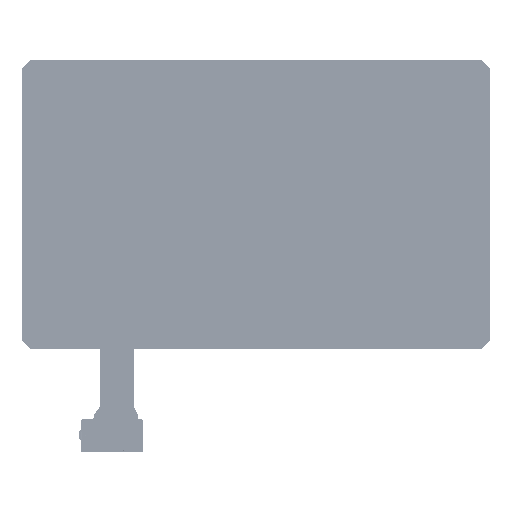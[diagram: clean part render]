
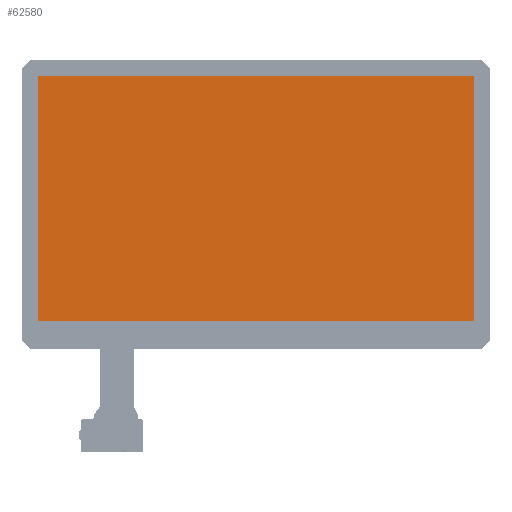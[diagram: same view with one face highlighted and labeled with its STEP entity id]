
A CAD part, top view. The second image highlights one B-rep face of the part: STEP entity #62580.
In plain terms, the highlighted planar face has unit normal (0, 0, 1).
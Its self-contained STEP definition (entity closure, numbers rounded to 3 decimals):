
#62580=ADVANCED_FACE('',(#110549),#828839,.T.);
#110549=FACE_OUTER_BOUND('',#158520,.T.);
#158520=EDGE_LOOP('',(#207640,#207641,#207642,#207643));
#207640=ORIENTED_EDGE('',*,*,#490198,.F.);
#207641=ORIENTED_EDGE('',*,*,#490197,.F.);
#207642=ORIENTED_EDGE('',*,*,#490196,.F.);
#207643=ORIENTED_EDGE('',*,*,#490199,.F.);
#490196=EDGE_CURVE('',#735049,#735050,#631936,.T.);
#490197=EDGE_CURVE('',#735050,#735051,#631937,.T.);
#490198=EDGE_CURVE('',#735051,#735052,#631938,.T.);
#490199=EDGE_CURVE('',#735052,#735049,#631939,.T.);
#631936=B_SPLINE_CURVE_WITH_KNOTS('',1,(#924023,#924024),.UNSPECIFIED.,
 .F.,.F.,(2,2),(-206.135,-12.665),.UNSPECIFIED.);
#631937=B_SPLINE_CURVE_WITH_KNOTS('',1,(#924025,#924026),.UNSPECIFIED.,
 .F.,.F.,(2,2),(-881.71,-537.59),.UNSPECIFIED.);
#631938=B_SPLINE_CURVE_WITH_KNOTS('',1,(#924027,#924028),.UNSPECIFIED.,
 .F.,.F.,(2,2),(-537.59,-344.12),.UNSPECIFIED.);
#631939=B_SPLINE_CURVE_WITH_KNOTS('',1,(#924029,#924030),.UNSPECIFIED.,
 .F.,.F.,(2,2),(-344.12,0.),.UNSPECIFIED.);
#735049=VERTEX_POINT('',#924011);
#735050=VERTEX_POINT('',#924012);
#735051=VERTEX_POINT('',#924013);
#735052=VERTEX_POINT('',#924014);
#828839=PLANE('',#862152);
#862152=AXIS2_PLACEMENT_3D('',#924002,#891592,$);
#891592=DIRECTION('',(0.,0.,1.));
#924002=CARTESIAN_POINT('',(230.938,142.875,0.));
#924011=CARTESIAN_POINT('',(-172.06,-91.835,0.));
#924012=CARTESIAN_POINT('',(-172.06,101.635,0.));
#924013=CARTESIAN_POINT('',(172.06,101.635,0.));
#924014=CARTESIAN_POINT('',(172.06,-91.835,0.));
#924023=CARTESIAN_POINT('',(-172.06,-91.835,0.));
#924024=CARTESIAN_POINT('',(-172.06,101.635,0.));
#924025=CARTESIAN_POINT('',(-172.06,101.635,0.));
#924026=CARTESIAN_POINT('',(172.06,101.635,0.));
#924027=CARTESIAN_POINT('',(172.06,101.635,0.));
#924028=CARTESIAN_POINT('',(172.06,-91.835,0.));
#924029=CARTESIAN_POINT('',(172.06,-91.835,0.));
#924030=CARTESIAN_POINT('',(-172.06,-91.835,0.));
